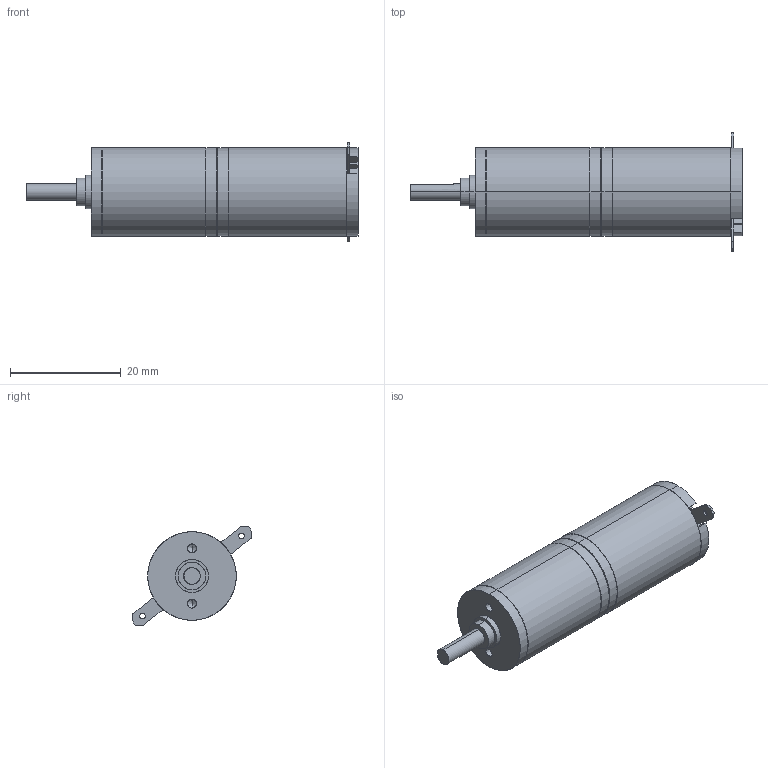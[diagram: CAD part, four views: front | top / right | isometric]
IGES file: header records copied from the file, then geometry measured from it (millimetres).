
Start section: SolidWorks IGES file using analytic representation for surfaces
Global section: file name: \\Uranus\R&D\plans\CATALOGUES\Topstock_Piece_IGES\AMax16CLL_+_GP016A 3etages.IGS; native system: SolidWorks 2008; preprocessor: SolidWorks 2008; author: JUL; date: 090325.182818; units: millimetre
Bounding box: 59.95 x 21.61 x 18.03 mm (x, y, z)
Surface area: 3674.6 mm2 (no closed solid volume)
Topology: 0 solids, 0 shells, 121 faces, 1278 edges, 1262 vertices
Faces by surface type: revolution 75, bspline 46
